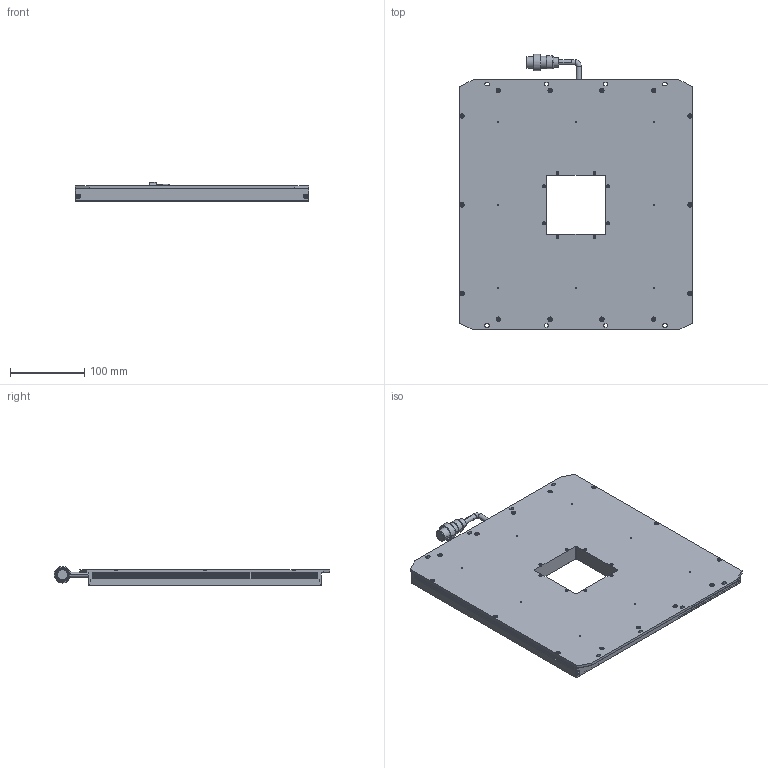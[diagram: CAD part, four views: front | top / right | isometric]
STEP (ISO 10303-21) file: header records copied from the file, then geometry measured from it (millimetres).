
FILE_DESCRIPTION((''),'2;1');
FILE_NAME('LS-LBES-H-300-300-X2','2022-11-04T17:14:26',('LumaSpec Vision'),('LumaSpec Vision'),'CREO PARAMETRIC BY PTC INC, 2020044','CREO PARAMETRIC BY PTC INC, 2020044','');
FILE_SCHEMA(('AUTOMOTIVE_DESIGN { 1 0 10303 214 1 1 1 1 }'));
Products named in the file (1): PRT0001
Bounding box: 315 x 372.75 x 25.75 mm (x, y, z)
Volume: 1983427.4 mm3; surface area: 248726.1 mm2
Topology: 2 solids, 88 shells, 2660 faces, 6086 edges, 3630 vertices
Faces by surface type: plane 1545, cylinder 678, cone 260, torus 104, extrusion 73
Entity records: 76500 total; most frequent: CARTESIAN_POINT 14546, DIRECTION 12297, ORIENTED_EDGE 12088, EDGE_CURVE 6044, AXIS2_PLACEMENT_3D 4154, VECTOR 3989, LINE 3916, VERTEX_POINT 3630
